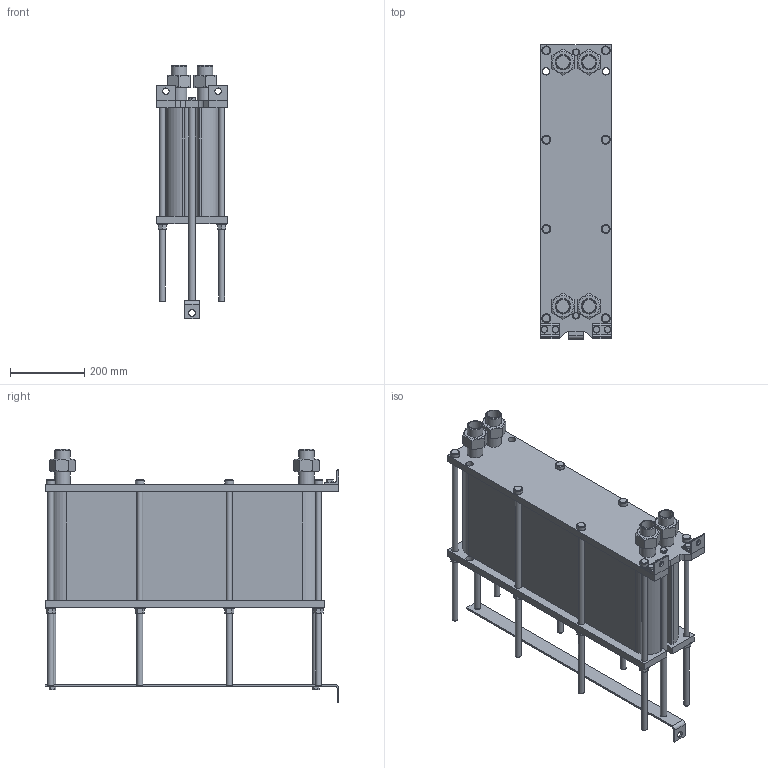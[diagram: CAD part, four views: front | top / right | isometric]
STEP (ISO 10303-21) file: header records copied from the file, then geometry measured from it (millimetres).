
FILE_DESCRIPTION(/* description */ (''),/* implementation_level */ '2;1');
FILE_NAME(/* name */ 'C:\Users\zhuro\Desktop\ENCO\TO\ЭН-008\ЭН-0,5-008-94-1.stp',/* time_stamp */ '2022-06-06T10:54:09+03:00',/* author */ ('zhuro'),/* organization */ (''),/* preprocessor_version */ 'ST-DEVELOPER v18.1',/* originating_system */ 'Autodesk Inventor 2022',/* authorisation */ '');
FILE_SCHEMA (('AUTOMOTIVE_DESIGN { 1 0 10303 214 3 1 1 }'));
Length unit declared in the file: millimetre
Products named in the file (1): ЭН-0,5-008-94-1
Bounding box: 190 x 790 x 680.2 mm (x, y, z)
Volume: 36649838 mm3; surface area: 1970771.8 mm2
Topology: 40 solids, 40 shells, 428 faces, 924 edges, 606 vertices
Faces by surface type: plane 273, cylinder 109, cone 40, torus 6
Full cylindrical faces by diameter (mm): 12 x6, 14 x2, 16 x20, 17 x8, 18 x19, 20 x5, 24 x8, 28 x8, 34.3 x8, 42.3 x8
Entity records: 15843 total; most frequent: CARTESIAN_POINT 5991, DIRECTION 1984, ORIENTED_EDGE 1848, EDGE_CURVE 924, AXIS2_PLACEMENT_3D 715, VERTEX_POINT 606, LINE 554, VECTOR 554
